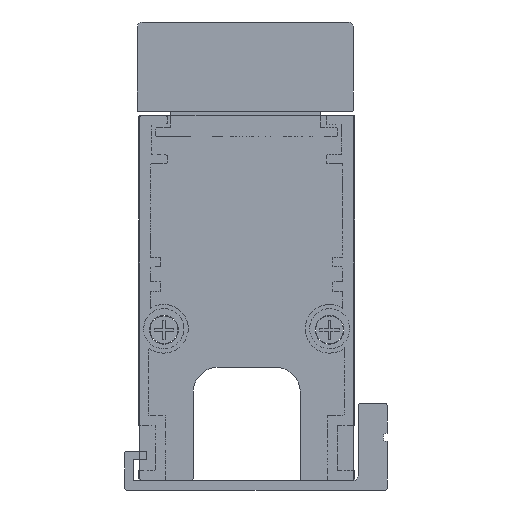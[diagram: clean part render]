
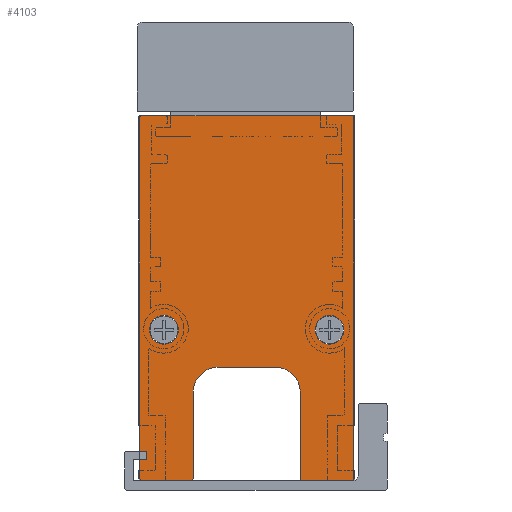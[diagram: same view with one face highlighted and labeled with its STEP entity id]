
A CAD part, front view. The second image highlights one B-rep face of the part: STEP entity #4103.
In plain terms, the highlighted planar face has unit normal (0, -1, 0).
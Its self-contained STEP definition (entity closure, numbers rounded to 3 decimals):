
#21=FACE_BOUND('',#601,.T.);
#22=FACE_BOUND('',#602,.T.);
#152=PLANE('',#4459);
#370=FACE_OUTER_BOUND('',#600,.T.);
#600=EDGE_LOOP('',(#3540,#3541,#3542,#3543,#3544,#3545,#3546,#3547,#3548,
#3549,#3550,#3551,#3552,#3553,#3554,#3555));
#601=EDGE_LOOP('',(#3556));
#602=EDGE_LOOP('',(#3557));
#966=LINE('',#6477,#1436);
#970=LINE('',#6489,#1440);
#974=LINE('',#6501,#1444);
#978=LINE('',#6513,#1448);
#982=LINE('',#6525,#1452);
#986=LINE('',#6537,#1456);
#990=LINE('',#6549,#1460);
#994=LINE('',#6560,#1464);
#1436=VECTOR('',#5303,10.);
#1440=VECTOR('',#5315,10.);
#1444=VECTOR('',#5327,10.);
#1448=VECTOR('',#5339,10.);
#1452=VECTOR('',#5351,10.);
#1456=VECTOR('',#5363,10.);
#1460=VECTOR('',#5375,10.);
#1464=VECTOR('',#5387,10.);
#1704=CIRCLE('',#4422,1.5);
#1706=CIRCLE('',#4425,1.5);
#1708=CIRCLE('',#4428,0.2);
#1710=CIRCLE('',#4432,0.2);
#1712=CIRCLE('',#4436,0.2);
#1714=CIRCLE('',#4440,0.2);
#1716=CIRCLE('',#4444,0.2);
#1718=CIRCLE('',#4448,0.2);
#1720=CIRCLE('',#4452,2.6);
#1722=CIRCLE('',#4456,2.6);
#1984=VERTEX_POINT('',#6455);
#1986=VERTEX_POINT('',#6461);
#1988=VERTEX_POINT('',#6467);
#1989=VERTEX_POINT('',#6468);
#1992=VERTEX_POINT('',#6476);
#1994=VERTEX_POINT('',#6482);
#1996=VERTEX_POINT('',#6488);
#1998=VERTEX_POINT('',#6494);
#2000=VERTEX_POINT('',#6500);
#2002=VERTEX_POINT('',#6506);
#2004=VERTEX_POINT('',#6512);
#2006=VERTEX_POINT('',#6518);
#2008=VERTEX_POINT('',#6524);
#2010=VERTEX_POINT('',#6530);
#2012=VERTEX_POINT('',#6536);
#2014=VERTEX_POINT('',#6542);
#2016=VERTEX_POINT('',#6548);
#2018=VERTEX_POINT('',#6554);
#2502=EDGE_CURVE('',#1984,#1984,#1704,.T.);
#2505=EDGE_CURVE('',#1986,#1986,#1706,.T.);
#2508=EDGE_CURVE('',#1988,#1989,#1708,.T.);
#2512=EDGE_CURVE('',#1989,#1992,#966,.T.);
#2515=EDGE_CURVE('',#1992,#1994,#1710,.T.);
#2518=EDGE_CURVE('',#1994,#1996,#970,.T.);
#2521=EDGE_CURVE('',#1996,#1998,#1712,.T.);
#2524=EDGE_CURVE('',#1998,#2000,#974,.T.);
#2527=EDGE_CURVE('',#2000,#2002,#1714,.T.);
#2530=EDGE_CURVE('',#2004,#2002,#978,.T.);
#2533=EDGE_CURVE('',#2004,#2006,#1716,.T.);
#2536=EDGE_CURVE('',#2008,#2006,#982,.T.);
#2539=EDGE_CURVE('',#2008,#2010,#1718,.T.);
#2542=EDGE_CURVE('',#2012,#2010,#986,.T.);
#2545=EDGE_CURVE('',#2014,#2012,#1720,.T.);
#2548=EDGE_CURVE('',#2016,#2014,#990,.T.);
#2551=EDGE_CURVE('',#2018,#2016,#1722,.T.);
#2554=EDGE_CURVE('',#2018,#1988,#994,.T.);
#3540=ORIENTED_EDGE('',*,*,#2554,.F.);
#3541=ORIENTED_EDGE('',*,*,#2551,.T.);
#3542=ORIENTED_EDGE('',*,*,#2548,.T.);
#3543=ORIENTED_EDGE('',*,*,#2545,.T.);
#3544=ORIENTED_EDGE('',*,*,#2542,.T.);
#3545=ORIENTED_EDGE('',*,*,#2539,.F.);
#3546=ORIENTED_EDGE('',*,*,#2536,.T.);
#3547=ORIENTED_EDGE('',*,*,#2533,.F.);
#3548=ORIENTED_EDGE('',*,*,#2530,.T.);
#3549=ORIENTED_EDGE('',*,*,#2527,.F.);
#3550=ORIENTED_EDGE('',*,*,#2524,.F.);
#3551=ORIENTED_EDGE('',*,*,#2521,.F.);
#3552=ORIENTED_EDGE('',*,*,#2518,.F.);
#3553=ORIENTED_EDGE('',*,*,#2515,.F.);
#3554=ORIENTED_EDGE('',*,*,#2512,.F.);
#3555=ORIENTED_EDGE('',*,*,#2508,.F.);
#3556=ORIENTED_EDGE('',*,*,#2502,.F.);
#3557=ORIENTED_EDGE('',*,*,#2505,.F.);
#4103=ADVANCED_FACE('',(#370,#21,#22),#152,.F.);
#4422=AXIS2_PLACEMENT_3D('',#6456,#5281,#5282);
#4425=AXIS2_PLACEMENT_3D('',#6462,#5288,#5289);
#4428=AXIS2_PLACEMENT_3D('',#6469,#5295,#5296);
#4432=AXIS2_PLACEMENT_3D('',#6483,#5308,#5309);
#4436=AXIS2_PLACEMENT_3D('',#6495,#5320,#5321);
#4440=AXIS2_PLACEMENT_3D('',#6507,#5332,#5333);
#4444=AXIS2_PLACEMENT_3D('',#6519,#5344,#5345);
#4448=AXIS2_PLACEMENT_3D('',#6531,#5356,#5357);
#4452=AXIS2_PLACEMENT_3D('',#6543,#5368,#5369);
#4456=AXIS2_PLACEMENT_3D('',#6555,#5380,#5381);
#4459=AXIS2_PLACEMENT_3D('',#6562,#5389,#5390);
#5281=DIRECTION('center_axis',(0.,-1.,0.));
#5282=DIRECTION('ref_axis',(1.,0.,0.));
#5288=DIRECTION('center_axis',(0.,-1.,0.));
#5289=DIRECTION('ref_axis',(1.,0.,0.));
#5295=DIRECTION('center_axis',(0.,1.,0.));
#5296=DIRECTION('ref_axis',(1.,0.,0.));
#5303=DIRECTION('',(-1.,0.,0.));
#5308=DIRECTION('center_axis',(0.,1.,0.));
#5309=DIRECTION('ref_axis',(0.,0.,-1.));
#5315=DIRECTION('',(0.,0.,1.));
#5320=DIRECTION('center_axis',(0.,1.,0.));
#5321=DIRECTION('ref_axis',(-1.,0.,0.));
#5327=DIRECTION('',(1.,0.,0.));
#5332=DIRECTION('center_axis',(0.,1.,0.));
#5333=DIRECTION('ref_axis',(0.,0.,1.));
#5339=DIRECTION('',(0.,0.,1.));
#5344=DIRECTION('center_axis',(0.,1.,0.));
#5345=DIRECTION('ref_axis',(1.,0.,0.));
#5351=DIRECTION('',(1.,0.,0.));
#5356=DIRECTION('center_axis',(0.,1.,0.));
#5357=DIRECTION('ref_axis',(0.,0.,-1.));
#5363=DIRECTION('',(0.,0.,-1.));
#5368=DIRECTION('center_axis',(0.,1.,0.));
#5369=DIRECTION('ref_axis',(0.,0.,1.));
#5375=DIRECTION('',(1.,0.,0.));
#5380=DIRECTION('center_axis',(0.,1.,0.));
#5381=DIRECTION('ref_axis',(-1.,0.,0.));
#5387=DIRECTION('',(0.,0.,-1.));
#5389=DIRECTION('center_axis',(0.,1.,0.));
#5390=DIRECTION('ref_axis',(1.,0.,0.));
#6455=CARTESIAN_POINT('',(7.136,-499.981,16.695));
#6456=CARTESIAN_POINT('Origin',(8.636,-499.981,16.695));
#6461=CARTESIAN_POINT('',(-10.136,-499.981,16.695));
#6462=CARTESIAN_POINT('Origin',(-8.636,-499.981,16.695));
#6467=CARTESIAN_POINT('',(-5.585,-499.981,1.177));
#6468=CARTESIAN_POINT('',(-5.785,-499.981,0.977));
#6469=CARTESIAN_POINT('Origin',(-5.785,-499.981,1.177));
#6476=CARTESIAN_POINT('',(-10.952,-499.981,0.977));
#6477=CARTESIAN_POINT('',(-5.785,-499.981,0.977));
#6482=CARTESIAN_POINT('',(-11.152,-499.981,1.177));
#6483=CARTESIAN_POINT('Origin',(-10.952,-499.981,1.177));
#6488=CARTESIAN_POINT('',(-11.152,-499.981,38.835));
#6489=CARTESIAN_POINT('',(-11.152,-499.981,1.177));
#6494=CARTESIAN_POINT('',(-10.952,-499.981,39.035));
#6495=CARTESIAN_POINT('Origin',(-10.952,-499.981,38.835));
#6500=CARTESIAN_POINT('',(10.945,-499.981,39.035));
#6501=CARTESIAN_POINT('',(-10.952,-499.981,39.035));
#6506=CARTESIAN_POINT('',(11.145,-499.981,38.835));
#6507=CARTESIAN_POINT('Origin',(10.945,-499.981,38.835));
#6512=CARTESIAN_POINT('',(11.145,-499.981,1.177));
#6513=CARTESIAN_POINT('',(11.145,-499.981,1.177));
#6518=CARTESIAN_POINT('',(10.945,-499.981,0.977));
#6519=CARTESIAN_POINT('Origin',(10.945,-499.981,1.177));
#6524=CARTESIAN_POINT('',(5.779,-499.981,0.977));
#6525=CARTESIAN_POINT('',(5.779,-499.981,0.977));
#6530=CARTESIAN_POINT('',(5.579,-499.981,1.177));
#6531=CARTESIAN_POINT('Origin',(5.779,-499.981,1.177));
#6536=CARTESIAN_POINT('',(5.579,-499.981,10.194));
#6537=CARTESIAN_POINT('',(5.579,-499.981,10.194));
#6542=CARTESIAN_POINT('',(2.979,-499.981,12.794));
#6543=CARTESIAN_POINT('Origin',(2.979,-499.981,10.194));
#6548=CARTESIAN_POINT('',(-2.985,-499.981,12.794));
#6549=CARTESIAN_POINT('',(-0.003,-499.981,12.794));
#6554=CARTESIAN_POINT('',(-5.585,-499.981,10.194));
#6555=CARTESIAN_POINT('Origin',(-2.985,-499.981,10.194));
#6560=CARTESIAN_POINT('',(-5.585,-499.981,10.194));
#6562=CARTESIAN_POINT('Origin',(-0.003,-499.981,20.006));
